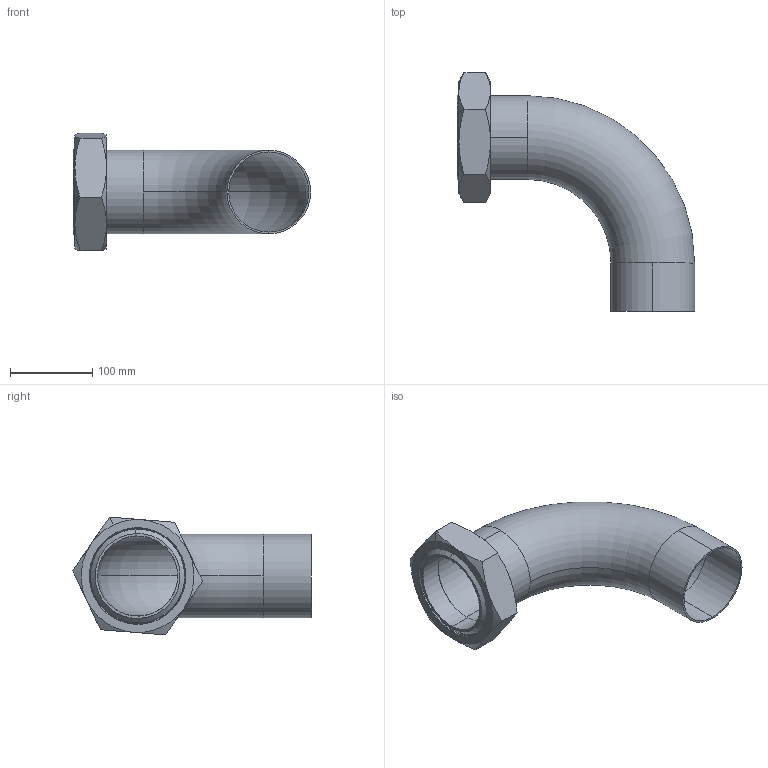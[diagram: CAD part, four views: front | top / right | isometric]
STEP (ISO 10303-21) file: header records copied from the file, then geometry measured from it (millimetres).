
FILE_DESCRIPTION (( 'STEP AP214' ), '1' );
FILE_NAME ('E2F4.0 REV1.STEP', '2025-06-13T16:34:28', ( '' ), ( '' ), 'SwSTEP 2.0', 'SolidWorks 2022', '' );
FILE_SCHEMA (( 'AUTOMOTIVE_DESIGN' ));
Length unit declared in the file: inch
Products named in the file (4): 14PR4.0 REV1; E2S4.0; E2F4.0 REV1; 13H4.0
Assembly tree (3 placements, depth 2):
  E2F4.0 REV1
    E2S4.0
    13H4.0
    14PR4.0 REV1
Bounding box: 288.11 x 290.06 x 143.01 mm (x, y, z)
Volume: 495491.1 mm3; surface area: 297428.3 mm2
Topology: 3 solids, 3 shells, 83 faces, 198 edges, 124 vertices
Faces by surface type: cylinder 37, cone 22, plane 17, torus 4, bspline 3
Entity records: 4563 total; most frequent: CARTESIAN_POINT 2566, ORIENTED_EDGE 396, DIRECTION 383, EDGE_CURVE 198, AXIS2_PLACEMENT_3D 161, VERTEX_POINT 124, EDGE_LOOP 92, ADVANCED_FACE 83
